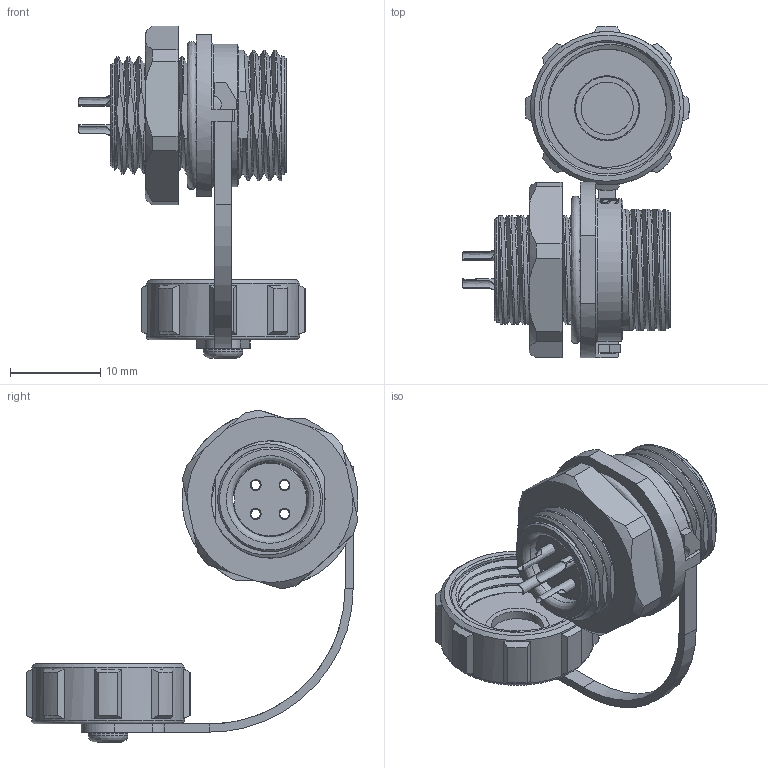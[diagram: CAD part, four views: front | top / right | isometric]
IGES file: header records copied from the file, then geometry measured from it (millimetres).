
Global section: file name: No Iges File Name specified; native system: Autodesk Inventor 2013; preprocessor: AutoDesk Inventor Iges Exporter R2013; author: grzegorz.suchecki; date: 20140722.151423; units: millimetre
Bounding box: 25.1 x 36.82 x 36.82 mm (x, y, z)
Volume: 3952.6 mm3; surface area: 6386.4 mm2
Topology: 11 solids, 11 shells, 504 faces, 1317 edges, 861 vertices
Faces by surface type: bspline 504
